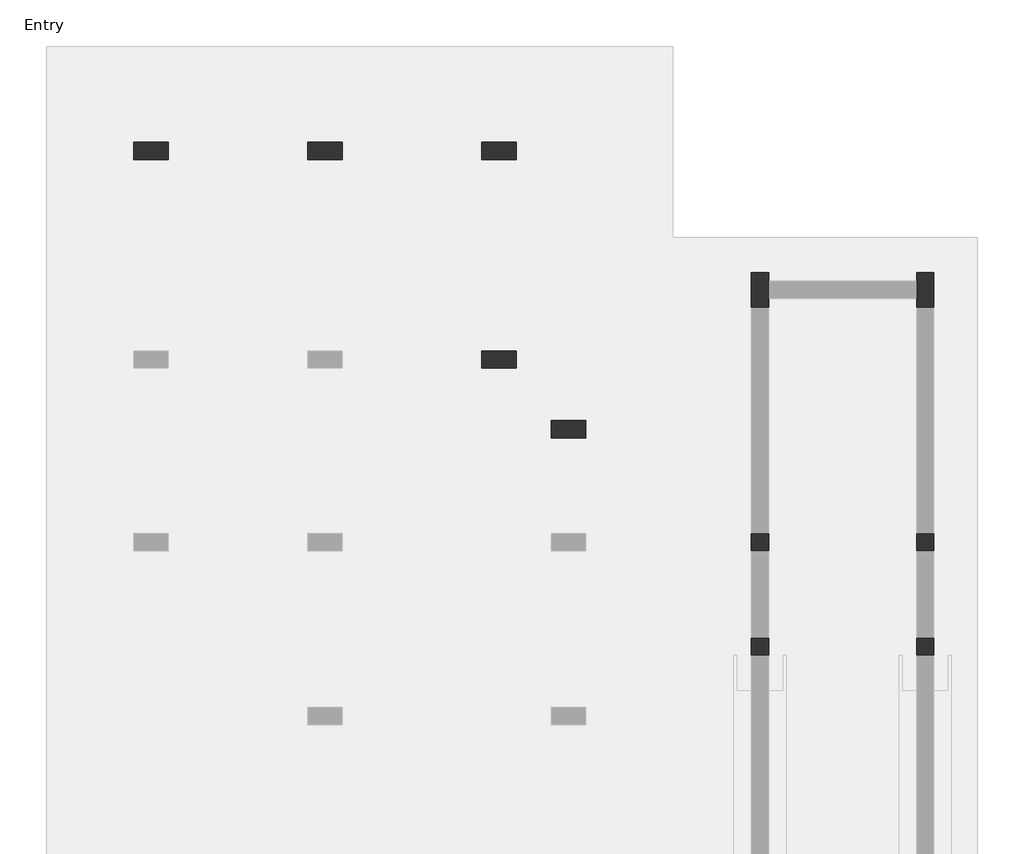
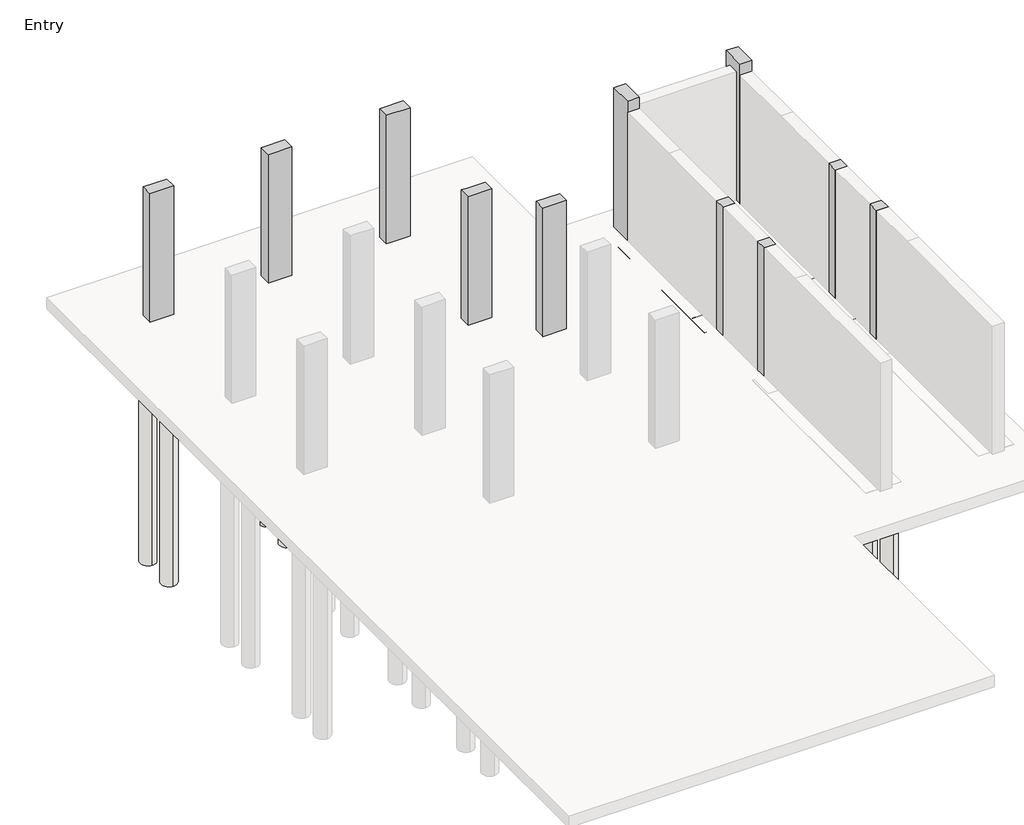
# One storey, part 3 of 3: 33 slabs, 11 columns, 5 footings.
"""IFC4 building model written with IfcOpenShell, lengths in millimetres."""

from ifc_helpers import new_model, si_unit, point, frame, frame_2d, origin, origin_with_axes, place, context, project, spatial, polyline, circle_curve, trimmed, segment, composite_curve, outline, extrude, faceted_brep, element, save

model = new_model("IFC4")

# Units and contexts
model_context = context("Model", 3, world=origin())
ifc_project = project(units=[si_unit("LENGTHUNIT", "METRE", prefix="MILLI")], contexts=[model_context])

# Site, building, storey
site = spatial("IfcSite", under=ifc_project)
building = spatial("IfcBuilding", under=site)
storey = spatial("IfcBuildingStorey", under=building, Name="Entry", Elevation=0.0)

# Columns
placement = place(None, origin())
element("IfcColumn", 1, ObjectType="Concrete-Rectangular-Column : 12 x 24", at=placement, inside=storey, context=model_context, shape_type="Brep", body=[
    faceted_brep([(-15967.1663981, 10274.1487848, 0.0), (-15357.5663981, 10274.1487848, 0.0), (-15357.5663981, 9969.3487848, 0.0), (-15967.1663981, 9969.3487848, 0.0), (-15967.1663981, 10274.1487848, 3505.2), (-15357.5663981, 10274.1487848, 3505.2), (-15357.5663981, 10274.1487848, 2895.6), (-15357.5663981, 9969.3487848, 3505.2), (-15357.5663981, 9969.3487848, 2895.6), (-15509.9663981, 9969.3487848, 3505.2), (-15814.7663981, 9969.3487848, 3505.2), (-15967.1663981, 9969.3487848, 3505.2)], [[[0, 1, 2, 3]], [[4, 5, 6, 1, 0]], [[5, 7, 8, 2, 1, 6]], [[7, 9, 10, 11, 3, 2, 8]], [[11, 4, 0, 3]], [[4, 11, 10, 9, 7, 5]]]),
])
element("IfcColumn", 2, ObjectType="Concrete-Rectangular-Column : 12 x 24", at=placement, inside=storey, context=model_context, shape_type="Brep", body=[
    faceted_brep([(-12919.1663981, 10274.1487848, 0.0), (-12309.5663981, 10274.1487848, 0.0), (-12309.5663981, 9969.3487848, 0.0), (-12919.1663981, 9969.3487848, 0.0), (-12919.1663981, 10274.1487848, 3505.2), (-12309.5663981, 10274.1487848, 3505.2), (-12309.5663981, 10274.1487848, 2895.6), (-12919.1663981, 10274.1487848, 2895.6), (-12309.5663981, 9969.3487848, 3505.2), (-12309.5663981, 9969.3487848, 2895.6), (-12461.9663981, 9969.3487848, 3505.2), (-12766.7663981, 9969.3487848, 3505.2), (-12919.1663981, 9969.3487848, 3505.2), (-12919.1663981, 9969.3487848, 2895.6)], [[[0, 1, 2, 3]], [[4, 5, 6, 1, 0, 7]], [[5, 8, 9, 2, 1, 6]], [[8, 10, 11, 12, 13, 3, 2, 9]], [[12, 4, 7, 0, 3, 13]], [[4, 12, 11, 10, 8, 5]]]),
])
element("IfcColumn", 3, ObjectType="Concrete-Rectangular-Column : 12 x 24", at=placement, inside=storey, context=model_context, shape_type="Brep", body=[
    faceted_brep([(-9871.1663981, 10274.1487848, 0.0), (-9261.5663981, 10274.1487848, 0.0), (-9261.5663981, 9969.3487848, 0.0), (-9871.1663981, 9969.3487848, 0.0), (-9871.1663981, 10274.1487848, 3505.2), (-9261.5663981, 10274.1487848, 3505.2), (-9871.1663981, 10274.1487848, 2895.6), (-9261.5663981, 9969.3487848, 3505.2), (-9413.9663981, 9969.3487848, 3505.2), (-9718.7663981, 9969.3487848, 3505.2), (-9871.1663981, 9969.3487848, 3505.2), (-9871.1663981, 9969.3487848, 2895.6)], [[[0, 1, 2, 3]], [[4, 5, 1, 0, 6]], [[5, 7, 2, 1]], [[7, 8, 9, 10, 11, 3, 2]], [[10, 4, 6, 0, 3, 11]], [[4, 10, 9, 8, 7, 5]]]),
])
element("IfcColumn", 4, ObjectType="Concrete-Rectangular-Column : 12 x 24", at=placement, inside=storey, context=model_context, shape_type="Brep", body=[
    faceted_brep([(-9871.1663981, 6616.5487848, 0.0), (-9261.5663981, 6616.5487848, 0.0), (-9261.5663981, 6311.7487848, 0.0), (-9871.1663981, 6311.7487848, 0.0), (-9871.1663981, 6616.5487848, 3505.2), (-9718.7663981, 6616.5487848, 3505.2), (-9413.9663981, 6616.5487848, 3505.2), (-9261.5663981, 6616.5487848, 3505.2), (-9871.1663981, 6616.5487848, 2895.6), (-9261.5663981, 6311.7487848, 3505.2), (-9413.9663981, 6311.7487848, 3505.2), (-9718.7663981, 6311.7487848, 3505.2), (-9871.1663981, 6311.7487848, 3505.2), (-9871.1663981, 6311.7487848, 2895.6)], [[[0, 1, 2, 3]], [[4, 5, 6, 7, 1, 0, 8]], [[7, 9, 2, 1]], [[9, 10, 11, 12, 13, 3, 2]], [[12, 4, 8, 0, 3, 13]], [[4, 12, 11, 10, 9, 7, 6, 5]]]),
])
element("IfcColumn", 5, ObjectType="Concrete-Rectangular-Column : 12 x 24", at=placement, inside=storey, context=model_context, shape_type="Brep", body=[
    faceted_brep([(-8651.9663981, 5397.3487848, 0.0), (-8042.3663981, 5397.3487848, 0.0), (-8042.3663981, 5092.5487848, 0.0), (-8651.9663981, 5092.5487848, 0.0), (-8651.9663981, 5397.3487848, 3505.2), (-8042.3663981, 5397.3487848, 3505.2), (-8651.9663981, 5397.3487848, 2895.6), (-8042.3663981, 5092.5487848, 3505.2), (-8194.7663981, 5092.5487848, 3505.2), (-8499.5663981, 5092.5487848, 3505.2), (-8651.9663981, 5092.5487848, 3505.2), (-8651.9663981, 5092.5487848, 2895.6)], [[[0, 1, 2, 3]], [[4, 5, 1, 0, 6]], [[5, 7, 2, 1]], [[7, 8, 9, 10, 11, 3, 2]], [[10, 4, 6, 0, 3, 11]], [[4, 10, 9, 8, 7, 5]]]),
])
element("IfcColumn", 6, ObjectType="Concrete-Rectangular-Column : 12 x 24", at=placement, inside=storey, context=model_context, shape_type="SweptSolid", body=[
    extrude(outline(polyline([(-5146.7663981, 3416.1487848), (-4841.9663981, 3416.1487848), (-4841.9663981, 3111.3487848), (-5146.7663981, 3111.3487848), (-5146.7663981, 3416.1487848)])), origin_with_axes(), (0.0, 0.0, 1.0), 3505.2),
])
element("IfcColumn", 7, ObjectType="Concrete-Rectangular-Column : 12 x 24", at=placement, inside=storey, context=model_context, shape_type="SweptSolid", body=[
    extrude(outline(polyline([(-2251.1663981, 3416.1487848), (-1946.3663981, 3416.1487848), (-1946.3663981, 3111.3487848), (-2251.1663981, 3111.3487848), (-2251.1663981, 3416.1487848)])), origin_with_axes(), (0.0, 0.0, 1.0), 3505.2),
])
element("IfcColumn", 8, ObjectType="Concrete-Rectangular-Column : 12 x 24", at=placement, inside=storey, context=model_context, shape_type="SweptSolid", body=[
    extrude(outline(polyline([(-5146.7663981, 1587.3487848), (-4841.9663981, 1587.3487848), (-4841.9663981, 1282.5487848), (-5146.7663981, 1282.5487848), (-5146.7663981, 1587.3487848)])), origin_with_axes(), (0.0, 0.0, 1.0), 3505.2),
])
element("IfcColumn", 9, ObjectType="Concrete-Rectangular-Column : 12 x 24", at=placement, inside=storey, context=model_context, shape_type="SweptSolid", body=[
    extrude(outline(polyline([(-2251.1663981, 1587.3487848), (-1946.3663981, 1587.3487848), (-1946.3663981, 1282.5487848), (-2251.1663981, 1282.5487848), (-2251.1663981, 1587.3487848)])), origin_with_axes(), (0.0, 0.0, 1.0), 3505.2),
])
element("IfcColumn", 10, ObjectType="Concrete-Rectangular-Column : 12 x 24", at=placement, inside=storey, context=model_context, shape_type="Brep", body=[
    faceted_brep([(-5146.7663981, 7378.5487848, 0.0), (-5146.7663981, 7988.1487848, 0.0), (-4841.9663981, 7988.1487848, 0.0), (-4841.9663981, 7835.7487848, 0.0), (-4841.9663981, 7530.9487848, 0.0), (-4841.9663981, 7378.5487848, 0.0), (-5146.7663981, 7378.5487848, 3810.0), (-5146.7663981, 7988.1487848, 3810.0), (-5146.7663981, 7378.5487848, 3505.2), (-4841.9663981, 7988.1487848, 3810.0), (-4841.9663981, 7378.5487848, 3810.0), (-4841.9663981, 7378.5487848, 3505.2)], [[[0, 1, 2, 3, 4, 5]], [[6, 7, 1, 0, 8]], [[7, 9, 2, 1]], [[9, 10, 11, 5, 4, 3, 2]], [[10, 6, 8, 0, 5, 11]], [[6, 10, 9, 7]]]),
])
element("IfcColumn", 11, ObjectType="Concrete-Rectangular-Column : 12 x 24", at=placement, inside=storey, context=model_context, shape_type="Brep", body=[
    faceted_brep([(-2251.1663981, 7378.5487848, 0.0), (-2251.1663981, 7530.9487848, 0.0), (-2251.1663981, 7835.7487848, 0.0), (-2251.1663981, 7988.1487848, 0.0), (-1946.3663981, 7988.1487848, 0.0), (-1946.3663981, 7378.5487848, 0.0), (-2251.1663981, 7378.5487848, 3810.0), (-2251.1663981, 7988.1487848, 3810.0), (-2251.1663981, 7378.5487848, 3505.2), (-1946.3663981, 7988.1487848, 3810.0), (-1946.3663981, 7378.5487848, 3810.0), (-1946.3663981, 7378.5487848, 3505.2)], [[[0, 1, 2, 3, 4, 5]], [[6, 7, 3, 2, 1, 0, 8]], [[7, 9, 4, 3]], [[9, 10, 11, 5, 4]], [[10, 6, 8, 0, 5, 11]], [[6, 10, 9, 7]]]),
])

# Footings
element("IfcFooting", 12, ObjectType="Bearing Footing - 36\" x 12\"", at=placement, inside=storey, context=model_context, shape_type="Brep", body=[
    faceted_brep([(-4841.9663981, 8140.5487848, 0.0), (-4841.9663981, 8140.5487848, -304.8), (-4841.9663981, 8089.7487848, -304.8), (-4841.9663981, 8089.7487848, 0.0), (-4841.9663981, 7226.1487848, -304.8), (-4841.9663981, 7226.1487848, 0.0), (-4841.9663981, 7276.9487848, 0.0), (-4841.9663981, 7276.9487848, -304.8), (-2251.1663981, 8140.5487848, -304.8), (-2251.1663981, 8140.5487848, 0.0), (-2251.1663981, 8089.7487848, 0.0), (-2251.1663981, 8089.7487848, -304.8), (-2251.1663981, 7226.1487848, 0.0), (-2251.1663981, 7226.1487848, -304.8), (-2251.1663981, 7276.9487848, -304.8), (-2251.1663981, 7276.9487848, 0.0), (-4219.6663981, 8089.7487848, 0.0), (-4219.6663981, 7276.9487848, 0.0), (-4537.1663981, 7226.1487848, 0.0), (-2555.9663981, 7226.1487848, 0.0), (-2873.4663981, 7276.9487848, 0.0), (-2873.4663981, 8089.7487848, 0.0), (-2873.4663981, 8089.7487848, -304.8), (-2873.4663981, 7276.9487848, -304.8), (-2555.9663981, 7226.1487848, -304.8), (-4537.1663981, 7226.1487848, -304.8), (-4219.6663981, 7276.9487848, -304.8), (-4219.6663981, 8089.7487848, -304.8)], [[[0, 1, 2, 3]], [[4, 5, 6, 7]], [[8, 9, 10, 11]], [[12, 13, 14, 15]], [[9, 0, 3, 16, 17, 6, 5, 18, 19, 12, 15, 20, 21, 10]], [[1, 0, 9, 8]], [[1, 8, 11, 22, 23, 14, 13, 24, 25, 4, 7, 26, 27, 2]], [[5, 4, 25, 24, 13, 12, 19, 18]], [[17, 26, 7, 6]], [[26, 17, 16, 27]], [[27, 16, 3, 2]], [[23, 20, 15, 14]], [[21, 22, 11, 10]], [[20, 23, 22, 21]]]),
])
element("IfcFooting", 13, ObjectType="Bearing Footing - 36\" x 12\"", at=placement, inside=storey, context=model_context, shape_type="SweptSolid", body=[
    extrude(outline(polyline([(-5451.5663981, 3416.1487848), (-5451.5663981, 7276.9487848), (-4841.9663981, 7276.9487848), (-4841.9663981, 7226.1487848), (-4537.1663981, 7226.1487848), (-4537.1663981, 3416.1487848), (-4587.9663981, 3416.1487848), (-4587.9663981, 4038.4487848), (-5400.7663981, 4038.4487848), (-5400.7663981, 3416.1487848), (-5451.5663981, 3416.1487848)])), frame((0.0, 0.0, -304.8), z_axis=(0.0, 0.0, 1.0), x_axis=(1.0, 0.0, 0.0)), (0.0, 0.0, 1.0), 304.8),
])
element("IfcFooting", 14, ObjectType="Bearing Footing - 36\" x 12\"", at=placement, inside=storey, context=model_context, shape_type="SweptSolid", body=[
    extrude(outline(polyline([(-1641.5663981, 7276.9487848), (-1641.5663981, 3416.1487848), (-1692.3663981, 3416.1487848), (-1692.3663981, 4038.4487848), (-2505.1663981, 4038.4487848), (-2505.1663981, 3416.1487848), (-2555.9663981, 3416.1487848), (-2555.9663981, 7226.1487848), (-2251.1663981, 7226.1487848), (-2251.1663981, 7276.9487848), (-1641.5663981, 7276.9487848)])), frame((0.0, 0.0, -304.8), z_axis=(0.0, 0.0, 1.0), x_axis=(1.0, 0.0, 0.0)), (0.0, 0.0, 1.0), 304.8),
])
element("IfcFooting", 15, ObjectType="Bearing Footing - 36\" x 12\"", at=placement, inside=storey, context=model_context, shape_type="SweptSolid", body=[
    extrude(outline(polyline([(-4537.1663981, 3111.3487848), (-4537.1663981, 1587.3487848), (-4587.9663981, 1587.3487848), (-4587.9663981, 2209.6487848), (-5400.7663981, 2209.6487848), (-5400.7663981, 1587.3487848), (-5451.5663981, 1587.3487848), (-5451.5663981, 3111.3487848), (-5400.7663981, 3111.3487848), (-5400.7663981, 2489.0487848), (-4587.9663981, 2489.0487848), (-4587.9663981, 3111.3487848), (-4537.1663981, 3111.3487848)])), frame((0.0, 0.0, -304.8), z_axis=(0.0, 0.0, 1.0), x_axis=(1.0, 0.0, 0.0)), (0.0, 0.0, 1.0), 304.8),
])
element("IfcFooting", 16, ObjectType="Bearing Footing - 36\" x 12\"", at=placement, inside=storey, context=model_context, shape_type="SweptSolid", body=[
    extrude(outline(polyline([(-1641.5663981, 3111.3487848), (-1641.5663981, 1587.3487848), (-1692.3663981, 1587.3487848), (-1692.3663981, 2209.6487848), (-2505.1663981, 2209.6487848), (-2505.1663981, 1587.3487848), (-2555.9663981, 1587.3487848), (-2555.9663981, 3111.3487848), (-2505.1663981, 3111.3487848), (-2505.1663981, 2489.0487848), (-1692.3663981, 2489.0487848), (-1692.3663981, 3111.3487848), (-1641.5663981, 3111.3487848)])), frame((0.0, 0.0, -304.8), z_axis=(0.0, 0.0, 1.0), x_axis=(1.0, 0.0, 0.0)), (0.0, 0.0, 1.0), 304.8),
])

# Slabs
element("IfcSlab", 17, ObjectType="Pile Cap-2 Pile : 31\"x61\"x35\"", at=placement, inside=storey, context=model_context, shape_type="SweptSolid", body=[
    extrude(outline(polyline([(-16068.7663981, 10896.4487848), (-15255.9663981, 10896.4487848), (-15255.9663981, 9347.0487848), (-16068.7663981, 9347.0487848), (-16068.7663981, 10896.4487848)])), frame((0.0, 0.0, -889.0), z_axis=(0.0, 0.0, 1.0), x_axis=(1.0, 0.0, 0.0)), (0.0, 0.0, 1.0), 584.2),
])
element("IfcSlab", 18, ObjectType="Pile Cap-2 Pile : 31\"x61\"x35\"", at=placement, inside=storey, context=model_context, shape_type="SweptSolid", body=[
    extrude(outline(polyline([(-13020.7663981, 10896.4487848), (-12207.9663981, 10896.4487848), (-12207.9663981, 9347.0487848), (-13020.7663981, 9347.0487848), (-13020.7663981, 10896.4487848)])), frame((0.0, 0.0, -889.0), z_axis=(0.0, 0.0, 1.0), x_axis=(1.0, 0.0, 0.0)), (0.0, 0.0, 1.0), 584.2),
])
element("IfcSlab", 19, ObjectType="Pile Cap-2 Pile : 31\"x61\"x35\"", at=placement, inside=storey, context=model_context, shape_type="SweptSolid", body=[
    extrude(outline(polyline([(-9972.7663981, 10896.4487848), (-9159.9663981, 10896.4487848), (-9159.9663981, 9347.0487848), (-9972.7663981, 9347.0487848), (-9972.7663981, 10896.4487848)])), frame((0.0, 0.0, -889.0), z_axis=(0.0, 0.0, 1.0), x_axis=(1.0, 0.0, 0.0)), (0.0, 0.0, 1.0), 584.2),
])
element("IfcSlab", 20, ObjectType="Pile Cap-2 Pile : 31\"x61\"x35\"", at=placement, inside=storey, context=model_context, shape_type="SweptSolid", body=[
    extrude(outline(polyline([(-9972.7663981, 7238.8487848), (-9159.9663981, 7238.8487848), (-9159.9663981, 5689.4487848), (-9972.7663981, 5689.4487848), (-9972.7663981, 7238.8487848)])), frame((0.0, 0.0, -889.0), z_axis=(0.0, 0.0, 1.0), x_axis=(1.0, 0.0, 0.0)), (0.0, 0.0, 1.0), 584.2),
])
element("IfcSlab", 21, ObjectType="Pile Cap-2 Pile : 31\"x61\"x35\"", at=placement, inside=storey, context=model_context, shape_type="SweptSolid", body=[
    extrude(outline(polyline([(-5769.0663981, 7276.9487848), (-5769.0663981, 8089.7487848), (-4219.6663981, 8089.7487848), (-4219.6663981, 7276.9487848), (-5769.0663981, 7276.9487848)])), frame((0.0, 0.0, -889.0), z_axis=(0.0, 0.0, 1.0), x_axis=(1.0, 0.0, 0.0)), (0.0, 0.0, 1.0), 584.2),
])
element("IfcSlab", 22, ObjectType="Pile Cap-2 Pile : 31\"x61\"x35\"", at=placement, inside=storey, context=model_context, shape_type="SweptSolid", body=[
    extrude(outline(polyline([(-2873.4663981, 7276.9487848), (-2873.4663981, 8089.7487848), (-1324.0663981, 8089.7487848), (-1324.0663981, 7276.9487848), (-2873.4663981, 7276.9487848)])), frame((0.0, 0.0, -889.0), z_axis=(0.0, 0.0, 1.0), x_axis=(1.0, 0.0, 0.0)), (0.0, 0.0, 1.0), 584.2),
])
element("IfcSlab", 23, ObjectType="Pile Cap-2 Pile : 31\"x61\"x35\"", at=placement, inside=storey, context=model_context, shape_type="SweptSolid", body=[
    extrude(outline(polyline([(-5400.7663981, 4038.4487848), (-4587.9663981, 4038.4487848), (-4587.9663981, 2489.0487848), (-5400.7663981, 2489.0487848), (-5400.7663981, 4038.4487848)])), frame((0.0, 0.0, -889.0), z_axis=(0.0, 0.0, 1.0), x_axis=(1.0, 0.0, 0.0)), (0.0, 0.0, 1.0), 584.2),
])
element("IfcSlab", 24, ObjectType="Pile Cap-2 Pile : 31\"x61\"x35\"", at=placement, inside=storey, context=model_context, shape_type="SweptSolid", body=[
    extrude(outline(polyline([(-5400.7663981, 2209.6487848), (-4587.9663981, 2209.6487848), (-4587.9663981, 660.2487848), (-5400.7663981, 660.2487848), (-5400.7663981, 2209.6487848)])), frame((0.0, 0.0, -889.0), z_axis=(0.0, 0.0, 1.0), x_axis=(1.0, 0.0, 0.0)), (0.0, 0.0, 1.0), 584.2),
])
element("IfcSlab", 25, ObjectType="Pile Cap-2 Pile : 31\"x61\"x35\"", at=placement, inside=storey, context=model_context, shape_type="SweptSolid", body=[
    extrude(outline(polyline([(-2505.1663981, 4038.4487848), (-1692.3663981, 4038.4487848), (-1692.3663981, 2489.0487848), (-2505.1663981, 2489.0487848), (-2505.1663981, 4038.4487848)])), frame((0.0, 0.0, -889.0), z_axis=(0.0, 0.0, 1.0), x_axis=(1.0, 0.0, 0.0)), (0.0, 0.0, 1.0), 584.2),
])
element("IfcSlab", 26, ObjectType="Pile Cap-2 Pile : 31\"x61\"x35\"", at=placement, inside=storey, context=model_context, shape_type="SweptSolid", body=[
    extrude(outline(polyline([(-2505.1663981, 2209.6487848), (-1692.3663981, 2209.6487848), (-1692.3663981, 660.2487848), (-2505.1663981, 660.2487848), (-2505.1663981, 2209.6487848)])), frame((0.0, 0.0, -889.0), z_axis=(0.0, 0.0, 1.0), x_axis=(1.0, 0.0, 0.0)), (0.0, 0.0, 1.0), 584.2),
])
element("IfcSlab", 27, ObjectType="Pile Cap-2 Pile : 31\"x61\"x35\"", at=placement, inside=storey, context=model_context, shape_type="SweptSolid", body=[
    extrude(outline(polyline([(-7940.7663981, 4470.2487848), (-8753.5663981, 4470.2487848), (-8753.5663981, 6019.6487848), (-7940.7663981, 6019.6487848), (-7940.7663981, 4470.2487848)])), frame((0.0, 0.0, -889.0), z_axis=(0.0, 0.0, 1.0), x_axis=(1.0, 0.0, 0.0)), (0.0, 0.0, 1.0), 584.2),
])
element("IfcSlab", 28, ObjectType="Pile-Steel Pipe : 16\" Diameter", at=placement, inside=storey, context=model_context, shape_type="SweptSolid", body=[
    extrude(outline(composite_curve([segment(trimmed(circle_curve(frame_2d((-15662.3663981, 9651.8487848)), 203.2), [point((-15662.3663981, 9448.6487848))], [point((-15662.3663981, 9855.0487848))], False, "CARTESIAN"), True, "CONTINUOUS"), segment(trimmed(circle_curve(frame_2d((-15662.3663981, 9651.8487848)), 203.2), [point((-15662.3663981, 9855.0487848))], [point((-15662.3663981, 9448.6487848))], False, "CARTESIAN"), True, "CONTINUOUS")], self_intersect=False)), frame((0.0, 0.0, -6985.0), z_axis=(0.0, 0.0, 1.0), x_axis=(1.0, 0.0, 0.0)), (0.0, 0.0, 1.0), 6096.0),
])
element("IfcSlab", 29, ObjectType="Pile-Steel Pipe : 16\" Diameter", at=placement, inside=storey, context=model_context, shape_type="SweptSolid", body=[
    extrude(outline(composite_curve([segment(trimmed(circle_curve(frame_2d((-15662.3663981, 10591.6487848)), 203.2), [point((-15662.3663981, 10388.4487848))], [point((-15662.3663981, 10794.8487848))], False, "CARTESIAN"), True, "CONTINUOUS"), segment(trimmed(circle_curve(frame_2d((-15662.3663981, 10591.6487848)), 203.2), [point((-15662.3663981, 10794.8487848))], [point((-15662.3663981, 10388.4487848))], False, "CARTESIAN"), True, "CONTINUOUS")], self_intersect=False)), frame((0.0, 0.0, -6985.0), z_axis=(0.0, 0.0, 1.0), x_axis=(1.0, 0.0, 0.0)), (0.0, 0.0, 1.0), 6096.0),
])
element("IfcSlab", 30, ObjectType="Pile-Steel Pipe : 16\" Diameter", at=placement, inside=storey, context=model_context, shape_type="SweptSolid", body=[
    extrude(outline(composite_curve([segment(trimmed(circle_curve(frame_2d((-12614.3663981, 9651.8487848)), 203.2), [point((-12614.3663981, 9448.6487848))], [point((-12614.3663981, 9855.0487848))], False, "CARTESIAN"), True, "CONTINUOUS"), segment(trimmed(circle_curve(frame_2d((-12614.3663981, 9651.8487848)), 203.2), [point((-12614.3663981, 9855.0487848))], [point((-12614.3663981, 9448.6487848))], False, "CARTESIAN"), True, "CONTINUOUS")], self_intersect=False)), frame((0.0, 0.0, -6985.0), z_axis=(0.0, 0.0, 1.0), x_axis=(1.0, 0.0, 0.0)), (0.0, 0.0, 1.0), 6096.0),
])
element("IfcSlab", 31, ObjectType="Pile-Steel Pipe : 16\" Diameter", at=placement, inside=storey, context=model_context, shape_type="SweptSolid", body=[
    extrude(outline(composite_curve([segment(trimmed(circle_curve(frame_2d((-12614.3663981, 10591.6487848)), 203.2), [point((-12614.3663981, 10388.4487848))], [point((-12614.3663981, 10794.8487848))], False, "CARTESIAN"), True, "CONTINUOUS"), segment(trimmed(circle_curve(frame_2d((-12614.3663981, 10591.6487848)), 203.2), [point((-12614.3663981, 10794.8487848))], [point((-12614.3663981, 10388.4487848))], False, "CARTESIAN"), True, "CONTINUOUS")], self_intersect=False)), frame((0.0, 0.0, -6985.0), z_axis=(0.0, 0.0, 1.0), x_axis=(1.0, 0.0, 0.0)), (0.0, 0.0, 1.0), 6096.0),
])
element("IfcSlab", 32, ObjectType="Pile-Steel Pipe : 16\" Diameter", at=placement, inside=storey, context=model_context, shape_type="SweptSolid", body=[
    extrude(outline(composite_curve([segment(trimmed(circle_curve(frame_2d((-9566.3663981, 9651.8487848)), 203.2), [point((-9566.3663981, 9448.6487848))], [point((-9566.3663981, 9855.0487848))], False, "CARTESIAN"), True, "CONTINUOUS"), segment(trimmed(circle_curve(frame_2d((-9566.3663981, 9651.8487848)), 203.2), [point((-9566.3663981, 9855.0487848))], [point((-9566.3663981, 9448.6487848))], False, "CARTESIAN"), True, "CONTINUOUS")], self_intersect=False)), frame((0.0, 0.0, -6985.0), z_axis=(0.0, 0.0, 1.0), x_axis=(1.0, 0.0, 0.0)), (0.0, 0.0, 1.0), 6096.0),
])
element("IfcSlab", 33, ObjectType="Pile-Steel Pipe : 16\" Diameter", at=placement, inside=storey, context=model_context, shape_type="SweptSolid", body=[
    extrude(outline(composite_curve([segment(trimmed(circle_curve(frame_2d((-9566.3663981, 10591.6487848)), 203.2), [point((-9566.3663981, 10388.4487848))], [point((-9566.3663981, 10794.8487848))], False, "CARTESIAN"), True, "CONTINUOUS"), segment(trimmed(circle_curve(frame_2d((-9566.3663981, 10591.6487848)), 203.2), [point((-9566.3663981, 10794.8487848))], [point((-9566.3663981, 10388.4487848))], False, "CARTESIAN"), True, "CONTINUOUS")], self_intersect=False)), frame((0.0, 0.0, -6985.0), z_axis=(0.0, 0.0, 1.0), x_axis=(1.0, 0.0, 0.0)), (0.0, 0.0, 1.0), 6096.0),
])
element("IfcSlab", 34, ObjectType="Pile-Steel Pipe : 16\" Diameter", at=placement, inside=storey, context=model_context, shape_type="SweptSolid", body=[
    extrude(outline(composite_curve([segment(trimmed(circle_curve(frame_2d((-9566.3663981, 5994.2487848)), 203.2), [point((-9566.3663981, 5791.0487848))], [point((-9566.3663981, 6197.4487848))], False, "CARTESIAN"), True, "CONTINUOUS"), segment(trimmed(circle_curve(frame_2d((-9566.3663981, 5994.2487848)), 203.2), [point((-9566.3663981, 6197.4487848))], [point((-9566.3663981, 5791.0487848))], False, "CARTESIAN"), True, "CONTINUOUS")], self_intersect=False)), frame((0.0, 0.0, -6985.0), z_axis=(0.0, 0.0, 1.0), x_axis=(1.0, 0.0, 0.0)), (0.0, 0.0, 1.0), 6096.0),
])
element("IfcSlab", 35, ObjectType="Pile-Steel Pipe : 16\" Diameter", at=placement, inside=storey, context=model_context, shape_type="SweptSolid", body=[
    extrude(outline(composite_curve([segment(trimmed(circle_curve(frame_2d((-9566.3663981, 6934.0487848)), 203.2), [point((-9566.3663981, 6730.8487848))], [point((-9566.3663981, 7137.2487848))], False, "CARTESIAN"), True, "CONTINUOUS"), segment(trimmed(circle_curve(frame_2d((-9566.3663981, 6934.0487848)), 203.2), [point((-9566.3663981, 7137.2487848))], [point((-9566.3663981, 6730.8487848))], False, "CARTESIAN"), True, "CONTINUOUS")], self_intersect=False)), frame((0.0, 0.0, -6985.0), z_axis=(0.0, 0.0, 1.0), x_axis=(1.0, 0.0, 0.0)), (0.0, 0.0, 1.0), 6096.0),
])
element("IfcSlab", 36, ObjectType="Pile-Steel Pipe : 16\" Diameter", at=placement, inside=storey, context=model_context, shape_type="SweptSolid", body=[
    extrude(outline(composite_curve([segment(trimmed(circle_curve(frame_2d((-4524.4663981, 7683.3487848)), 203.2), [point((-4321.2663981, 7683.3487848))], [point((-4727.6663981, 7683.3487848))], False, "CARTESIAN"), True, "CONTINUOUS"), segment(trimmed(circle_curve(frame_2d((-4524.4663981, 7683.3487848)), 203.2), [point((-4727.6663981, 7683.3487848))], [point((-4321.2663981, 7683.3487848))], False, "CARTESIAN"), True, "CONTINUOUS")], self_intersect=False)), frame((0.0, 0.0, -6985.0), z_axis=(0.0, 0.0, 1.0), x_axis=(1.0, 0.0, 0.0)), (0.0, 0.0, 1.0), 6096.0),
])
element("IfcSlab", 37, ObjectType="Pile-Steel Pipe : 16\" Diameter", at=placement, inside=storey, context=model_context, shape_type="SweptSolid", body=[
    extrude(outline(composite_curve([segment(trimmed(circle_curve(frame_2d((-5464.2663981, 7683.3487848)), 203.2), [point((-5261.0663981, 7683.3487848))], [point((-5667.4663981, 7683.3487848))], False, "CARTESIAN"), True, "CONTINUOUS"), segment(trimmed(circle_curve(frame_2d((-5464.2663981, 7683.3487848)), 203.2), [point((-5667.4663981, 7683.3487848))], [point((-5261.0663981, 7683.3487848))], False, "CARTESIAN"), True, "CONTINUOUS")], self_intersect=False)), frame((0.0, 0.0, -6985.0), z_axis=(0.0, 0.0, 1.0), x_axis=(1.0, 0.0, 0.0)), (0.0, 0.0, 1.0), 6096.0),
])
element("IfcSlab", 38, ObjectType="Pile-Steel Pipe : 16\" Diameter", at=placement, inside=storey, context=model_context, shape_type="SweptSolid", body=[
    extrude(outline(composite_curve([segment(trimmed(circle_curve(frame_2d((-1628.8663981, 7683.3487848)), 203.2), [point((-1425.6663981, 7683.3487848))], [point((-1832.0663981, 7683.3487848))], False, "CARTESIAN"), True, "CONTINUOUS"), segment(trimmed(circle_curve(frame_2d((-1628.8663981, 7683.3487848)), 203.2), [point((-1832.0663981, 7683.3487848))], [point((-1425.6663981, 7683.3487848))], False, "CARTESIAN"), True, "CONTINUOUS")], self_intersect=False)), frame((0.0, 0.0, -6985.0), z_axis=(0.0, 0.0, 1.0), x_axis=(1.0, 0.0, 0.0)), (0.0, 0.0, 1.0), 6096.0),
])
element("IfcSlab", 39, ObjectType="Pile-Steel Pipe : 16\" Diameter", at=placement, inside=storey, context=model_context, shape_type="SweptSolid", body=[
    extrude(outline(composite_curve([segment(trimmed(circle_curve(frame_2d((-2568.6663981, 7683.3487848)), 203.2), [point((-2365.4663981, 7683.3487848))], [point((-2771.8663981, 7683.3487848))], False, "CARTESIAN"), True, "CONTINUOUS"), segment(trimmed(circle_curve(frame_2d((-2568.6663981, 7683.3487848)), 203.2), [point((-2771.8663981, 7683.3487848))], [point((-2365.4663981, 7683.3487848))], False, "CARTESIAN"), True, "CONTINUOUS")], self_intersect=False)), frame((0.0, 0.0, -6985.0), z_axis=(0.0, 0.0, 1.0), x_axis=(1.0, 0.0, 0.0)), (0.0, 0.0, 1.0), 6096.0),
])
element("IfcSlab", 40, ObjectType="Pile-Steel Pipe : 16\" Diameter", at=placement, inside=storey, context=model_context, shape_type="SweptSolid", body=[
    extrude(outline(composite_curve([segment(trimmed(circle_curve(frame_2d((-4994.3663981, 2793.8487848)), 203.2), [point((-4994.3663981, 2590.6487848))], [point((-4994.3663981, 2997.0487848))], False, "CARTESIAN"), True, "CONTINUOUS"), segment(trimmed(circle_curve(frame_2d((-4994.3663981, 2793.8487848)), 203.2), [point((-4994.3663981, 2997.0487848))], [point((-4994.3663981, 2590.6487848))], False, "CARTESIAN"), True, "CONTINUOUS")], self_intersect=False)), frame((0.0, 0.0, -6985.0), z_axis=(0.0, 0.0, 1.0), x_axis=(1.0, 0.0, 0.0)), (0.0, 0.0, 1.0), 6096.0),
])
element("IfcSlab", 41, ObjectType="Pile-Steel Pipe : 16\" Diameter", at=placement, inside=storey, context=model_context, shape_type="SweptSolid", body=[
    extrude(outline(composite_curve([segment(trimmed(circle_curve(frame_2d((-4994.3663981, 3733.6487848)), 203.2), [point((-4994.3663981, 3530.4487848))], [point((-4994.3663981, 3936.8487848))], False, "CARTESIAN"), True, "CONTINUOUS"), segment(trimmed(circle_curve(frame_2d((-4994.3663981, 3733.6487848)), 203.2), [point((-4994.3663981, 3936.8487848))], [point((-4994.3663981, 3530.4487848))], False, "CARTESIAN"), True, "CONTINUOUS")], self_intersect=False)), frame((0.0, 0.0, -6985.0), z_axis=(0.0, 0.0, 1.0), x_axis=(1.0, 0.0, 0.0)), (0.0, 0.0, 1.0), 6096.0),
])
element("IfcSlab", 42, ObjectType="Pile-Steel Pipe : 16\" Diameter", at=placement, inside=storey, context=model_context, shape_type="SweptSolid", body=[
    extrude(outline(composite_curve([segment(trimmed(circle_curve(frame_2d((-4994.3663981, 965.0487848)), 203.2), [point((-4994.3663981, 761.8487848))], [point((-4994.3663981, 1168.2487848))], False, "CARTESIAN"), True, "CONTINUOUS"), segment(trimmed(circle_curve(frame_2d((-4994.3663981, 965.0487848)), 203.2), [point((-4994.3663981, 1168.2487848))], [point((-4994.3663981, 761.8487848))], False, "CARTESIAN"), True, "CONTINUOUS")], self_intersect=False)), frame((0.0, 0.0, -6985.0), z_axis=(0.0, 0.0, 1.0), x_axis=(1.0, 0.0, 0.0)), (0.0, 0.0, 1.0), 6096.0),
])
element("IfcSlab", 43, ObjectType="Pile-Steel Pipe : 16\" Diameter", at=placement, inside=storey, context=model_context, shape_type="SweptSolid", body=[
    extrude(outline(composite_curve([segment(trimmed(circle_curve(frame_2d((-4994.3663981, 1904.8487848)), 203.2), [point((-4994.3663981, 1701.6487848))], [point((-4994.3663981, 2108.0487848))], False, "CARTESIAN"), True, "CONTINUOUS"), segment(trimmed(circle_curve(frame_2d((-4994.3663981, 1904.8487848)), 203.2), [point((-4994.3663981, 2108.0487848))], [point((-4994.3663981, 1701.6487848))], False, "CARTESIAN"), True, "CONTINUOUS")], self_intersect=False)), frame((0.0, 0.0, -6985.0), z_axis=(0.0, 0.0, 1.0), x_axis=(1.0, 0.0, 0.0)), (0.0, 0.0, 1.0), 6096.0),
])
element("IfcSlab", 44, ObjectType="Pile-Steel Pipe : 16\" Diameter", at=placement, inside=storey, context=model_context, shape_type="SweptSolid", body=[
    extrude(outline(composite_curve([segment(trimmed(circle_curve(frame_2d((-2098.7663981, 2793.8487848)), 203.2), [point((-2098.7663981, 2590.6487848))], [point((-2098.7663981, 2997.0487848))], False, "CARTESIAN"), True, "CONTINUOUS"), segment(trimmed(circle_curve(frame_2d((-2098.7663981, 2793.8487848)), 203.2), [point((-2098.7663981, 2997.0487848))], [point((-2098.7663981, 2590.6487848))], False, "CARTESIAN"), True, "CONTINUOUS")], self_intersect=False)), frame((0.0, 0.0, -6985.0), z_axis=(0.0, 0.0, 1.0), x_axis=(1.0, 0.0, 0.0)), (0.0, 0.0, 1.0), 6096.0),
])
element("IfcSlab", 45, ObjectType="Pile-Steel Pipe : 16\" Diameter", at=placement, inside=storey, context=model_context, shape_type="SweptSolid", body=[
    extrude(outline(composite_curve([segment(trimmed(circle_curve(frame_2d((-2098.7663981, 3733.6487848)), 203.2), [point((-2098.7663981, 3530.4487848))], [point((-2098.7663981, 3936.8487848))], False, "CARTESIAN"), True, "CONTINUOUS"), segment(trimmed(circle_curve(frame_2d((-2098.7663981, 3733.6487848)), 203.2), [point((-2098.7663981, 3936.8487848))], [point((-2098.7663981, 3530.4487848))], False, "CARTESIAN"), True, "CONTINUOUS")], self_intersect=False)), frame((0.0, 0.0, -6985.0), z_axis=(0.0, 0.0, 1.0), x_axis=(1.0, 0.0, 0.0)), (0.0, 0.0, 1.0), 6096.0),
])
element("IfcSlab", 46, ObjectType="Pile-Steel Pipe : 16\" Diameter", at=placement, inside=storey, context=model_context, shape_type="SweptSolid", body=[
    extrude(outline(composite_curve([segment(trimmed(circle_curve(frame_2d((-2098.7663981, 965.0487848)), 203.2), [point((-2098.7663981, 761.8487848))], [point((-2098.7663981, 1168.2487848))], False, "CARTESIAN"), True, "CONTINUOUS"), segment(trimmed(circle_curve(frame_2d((-2098.7663981, 965.0487848)), 203.2), [point((-2098.7663981, 1168.2487848))], [point((-2098.7663981, 761.8487848))], False, "CARTESIAN"), True, "CONTINUOUS")], self_intersect=False)), frame((0.0, 0.0, -6985.0), z_axis=(0.0, 0.0, 1.0), x_axis=(1.0, 0.0, 0.0)), (0.0, 0.0, 1.0), 6096.0),
])
element("IfcSlab", 47, ObjectType="Pile-Steel Pipe : 16\" Diameter", at=placement, inside=storey, context=model_context, shape_type="SweptSolid", body=[
    extrude(outline(composite_curve([segment(trimmed(circle_curve(frame_2d((-2098.7663981, 1904.8487848)), 203.2), [point((-2098.7663981, 1701.6487848))], [point((-2098.7663981, 2108.0487848))], False, "CARTESIAN"), True, "CONTINUOUS"), segment(trimmed(circle_curve(frame_2d((-2098.7663981, 1904.8487848)), 203.2), [point((-2098.7663981, 2108.0487848))], [point((-2098.7663981, 1701.6487848))], False, "CARTESIAN"), True, "CONTINUOUS")], self_intersect=False)), frame((0.0, 0.0, -6985.0), z_axis=(0.0, 0.0, 1.0), x_axis=(1.0, 0.0, 0.0)), (0.0, 0.0, 1.0), 6096.0),
])
element("IfcSlab", 48, ObjectType="Pile-Steel Pipe : 16\" Diameter", at=placement, inside=storey, context=model_context, shape_type="SweptSolid", body=[
    extrude(outline(composite_curve([segment(trimmed(circle_curve(frame_2d((-8347.1663981, 5714.8487848)), 203.2), [point((-8347.1663981, 5918.0487848))], [point((-8347.1663981, 5511.6487848))], False, "CARTESIAN"), True, "CONTINUOUS"), segment(trimmed(circle_curve(frame_2d((-8347.1663981, 5714.8487848)), 203.2), [point((-8347.1663981, 5511.6487848))], [point((-8347.1663981, 5918.0487848))], False, "CARTESIAN"), True, "CONTINUOUS")], self_intersect=False)), frame((0.0, 0.0, -6985.0), z_axis=(0.0, 0.0, 1.0), x_axis=(1.0, 0.0, 0.0)), (0.0, 0.0, 1.0), 6096.0),
])
element("IfcSlab", 49, ObjectType="Pile-Steel Pipe : 16\" Diameter", at=placement, inside=storey, context=model_context, shape_type="SweptSolid", body=[
    extrude(outline(composite_curve([segment(trimmed(circle_curve(frame_2d((-8347.1663981, 4775.0487848)), 203.2), [point((-8347.1663981, 4978.2487848))], [point((-8347.1663981, 4571.8487848))], False, "CARTESIAN"), True, "CONTINUOUS"), segment(trimmed(circle_curve(frame_2d((-8347.1663981, 4775.0487848)), 203.2), [point((-8347.1663981, 4571.8487848))], [point((-8347.1663981, 4978.2487848))], False, "CARTESIAN"), True, "CONTINUOUS")], self_intersect=False)), frame((0.0, 0.0, -6985.0), z_axis=(0.0, 0.0, 1.0), x_axis=(1.0, 0.0, 0.0)), (0.0, 0.0, 1.0), 6096.0),
])

save(model, "model.ifc")
